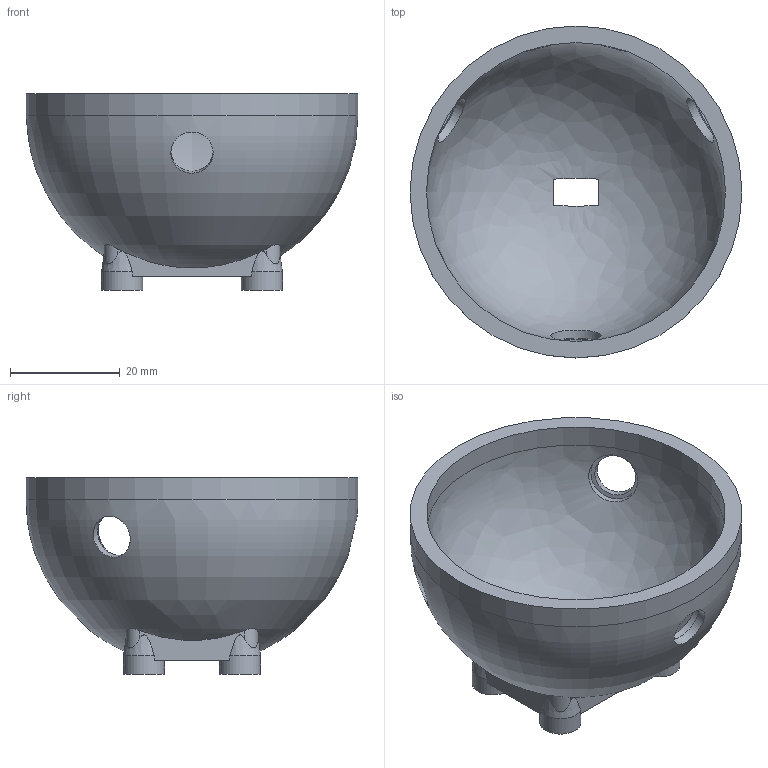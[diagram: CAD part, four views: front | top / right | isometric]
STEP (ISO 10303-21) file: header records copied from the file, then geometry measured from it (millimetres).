
FILE_DESCRIPTION(('Open CASCADE Model'),'2;1');
FILE_NAME('Open CASCADE Shape Model','2026-05-31T19:43:42',('Author'),( 'Open CASCADE'),'Open CASCADE STEP processor 7.6','Open CASCADE 7.6' ,'Unknown');
FILE_SCHEMA(('AP242_MANAGED_MODEL_BASED_3D_ENGINEERING_MIM_LF. {1 0 10303 442 1 1 4 }'));
Length unit declared in the file: millimetre
Products named in the file (1): Open CASCADE STEP translator 7.6 12
Bounding box: 60.5 x 60.5 x 35.85 mm (x, y, z)
Volume: 18359.3 mm3; surface area: 13230.3 mm2
Topology: 1 solids, 1 shells, 60 faces, 150 edges, 100 vertices
Faces by surface type: plane 26, cylinder 24, bspline 4, cone 4, revolution 2
Full cylindrical faces by diameter (mm): 3.5 x4, 7.5 x4, 7.7 x3, 9.2 x3, 54.5 x1, 60.5 x1
Entity records: 8636 total; most frequent: CARTESIAN_POINT 5741, DIRECTION 494, ORIENTED_EDGE 300, PCURVE 300, DEFINITIONAL_REPRESENTATION 300, LINE 230, VECTOR 230, EDGE_CURVE 150
